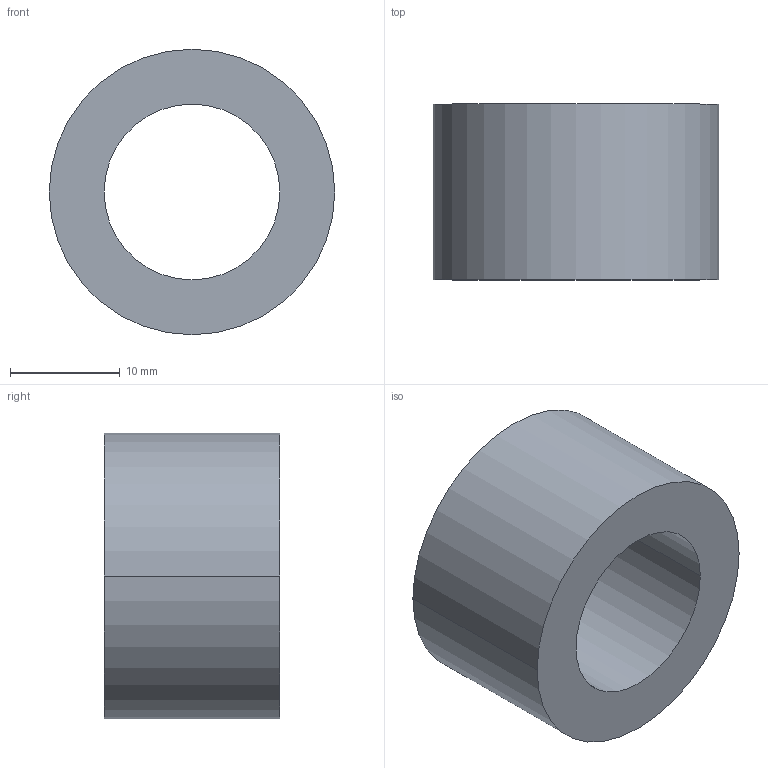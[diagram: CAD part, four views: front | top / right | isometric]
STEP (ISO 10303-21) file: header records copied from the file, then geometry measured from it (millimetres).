
FILE_DESCRIPTION (( 'STEP AP203' ), '1' );
FILE_NAME ('30800.WPP26F16.0.step', '2019-01-23T22:45:23', ( '' ), ( '' ), 'SwSTEP 2.0', 'SolidWorks 2017', '' );
FILE_SCHEMA (( 'CONFIG_CONTROL_DESIGN' ));
Length unit declared in the file: millimetre
Products named in the file (1): 30800.WPP26F16.0
Bounding box: 26 x 16 x 26 mm (x, y, z)
Volume: 5232.3 mm3; surface area: 2729.5 mm2
Topology: 1 solids, 1 shells, 8 faces, 16 edges, 10 vertices
Faces by surface type: cylinder 4, torus 2, plane 2
Entity records: 297 total; most frequent: DIRECTION 46, CARTESIAN_POINT 35, ORIENTED_EDGE 32, AXIS2_PLACEMENT_3D 21, EDGE_CURVE 16, CIRCLE 12, VERTEX_POINT 10, EDGE_LOOP 10
